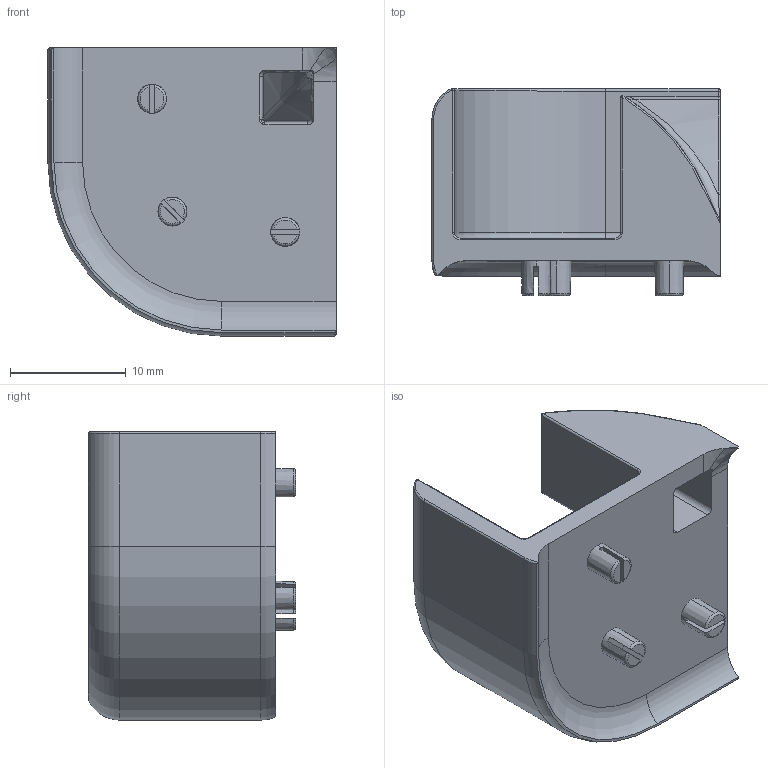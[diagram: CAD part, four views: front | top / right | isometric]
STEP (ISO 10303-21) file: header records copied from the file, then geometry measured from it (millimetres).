
FILE_DESCRIPTION (( 'STEP AP203' ), '1' );
FILE_NAME ('013.025.131.STEP', '2020-09-21T07:11:22', ( '' ), ( '' ), 'SwSTEP 2.0', 'SolidWorks 2018', '' );
FILE_SCHEMA (( 'CONFIG_CONTROL_DESIGN' ));
Length unit declared in the file: millimetre
Products named in the file (1): 013.025.131
Bounding box: 24.9 x 17.89 x 24.9 mm (x, y, z)
Volume: 2771.8 mm3; surface area: 3100.8 mm2
Topology: 1 solids, 1 shells, 126 faces, 306 edges, 181 vertices
Faces by surface type: cylinder 37, plane 31, torus 29, bspline 20, cone 6, sphere 3
Entity records: 4220 total; most frequent: CARTESIAN_POINT 1352, ORIENTED_EDGE 600, DIRECTION 583, EDGE_CURVE 300, AXIS2_PLACEMENT_3D 245, VERTEX_POINT 179, CIRCLE 138, EDGE_LOOP 129
